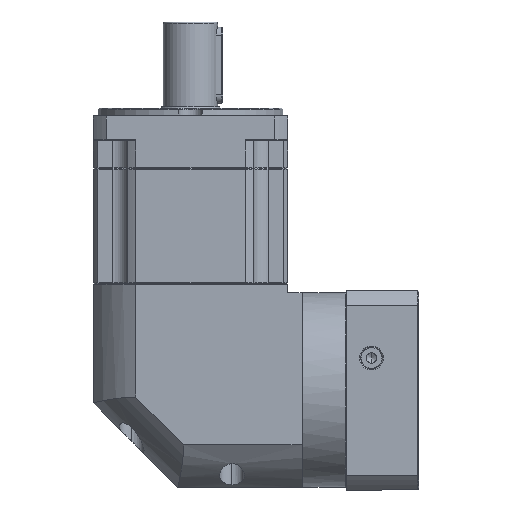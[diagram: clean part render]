
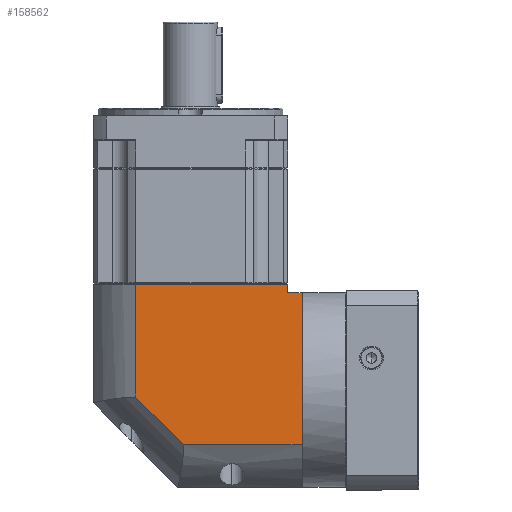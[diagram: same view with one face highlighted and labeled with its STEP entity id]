
A CAD part, left-side view. The second image highlights one B-rep face of the part: STEP entity #158562.
In plain terms, the highlighted planar face has unit normal (-1, 0, 0).
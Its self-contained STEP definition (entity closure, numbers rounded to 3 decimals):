
#366 = CARTESIAN_POINT ( 'NONE',  ( -232.004, -67.467, 7.551 ) ) ;
#692 = VERTEX_POINT ( 'NONE', #87624 ) ;
#2110 = VECTOR ( 'NONE', #4855, 1000. ) ;
#3949 = ORIENTED_EDGE ( 'NONE', *, *, #139389, .F. ) ;
#3987 = LINE ( 'NONE', #162238, #174203 ) ;
#4139 = CARTESIAN_POINT ( 'NONE',  ( -232.004, 22.433, 134.051 ) ) ;
#4855 = DIRECTION ( 'NONE',  ( 0., -1., 0. ) ) ;
#5204 = CARTESIAN_POINT ( 'NONE',  ( -232.004, 47.533, 134.051 ) ) ;
#6316 = LINE ( 'NONE', #165802, #2110 ) ;
#15825 = VECTOR ( 'NONE', #116271, 1000. ) ;
#17711 = VERTEX_POINT ( 'NONE', #156523 ) ;
#18158 = PLANE ( 'NONE',  #49933 ) ;
#18735 = DIRECTION ( 'NONE',  ( 0., 1., 0. ) ) ;
#24868 = VECTOR ( 'NONE', #58538, 1000. ) ;
#27410 = ORIENTED_EDGE ( 'NONE', *, *, #161870, .F. ) ;
#29100 = LINE ( 'NONE', #45051, #24868 ) ;
#29278 = CARTESIAN_POINT ( 'NONE',  ( -232.004, -67.467, 127.551 ) ) ;
#35707 = CARTESIAN_POINT ( 'NONE',  ( -232.004, -75.867, 32.651 ) ) ;
#40419 = ORIENTED_EDGE ( 'NONE', *, *, #164930, .T. ) ;
#43357 = ORIENTED_EDGE ( 'NONE', *, *, #144510, .F. ) ;
#45051 = CARTESIAN_POINT ( 'NONE',  ( -232.004, -5.905, 32.651 ) ) ;
#48315 = ORIENTED_EDGE ( 'NONE', *, *, #133468, .F. ) ;
#49933 = AXIS2_PLACEMENT_3D ( 'NONE', #5204, #99114, #18735 ) ;
#58538 = DIRECTION ( 'NONE',  ( 0., 0.707, 0.707 ) ) ;
#59085 = DIRECTION ( 'NONE',  ( 0., 1., 0. ) ) ;
#59761 = VERTEX_POINT ( 'NONE', #35707 ) ;
#73436 = LINE ( 'NONE', #366, #144818 ) ;
#77522 = VERTEX_POINT ( 'NONE', #29278 ) ;
#77940 = CARTESIAN_POINT ( 'NONE',  ( -232.004, -5.905, 32.651 ) ) ;
#84559 = DIRECTION ( 'NONE',  ( 0., 0., 1. ) ) ;
#87624 = CARTESIAN_POINT ( 'NONE',  ( -232.004, -67.467, 122.551 ) ) ;
#93904 = VECTOR ( 'NONE', #59085, 1000. ) ;
#94252 = DIRECTION ( 'NONE',  ( 0., 0., 1. ) ) ;
#94698 = VERTEX_POINT ( 'NONE', #145374 ) ;
#97829 = EDGE_CURVE ( 'NONE', #94698, #59761, #3987, .T. ) ;
#99114 = DIRECTION ( 'NONE',  ( 1., 0., 0. ) ) ;
#101854 = VERTEX_POINT ( 'NONE', #148591 ) ;
#102749 = CARTESIAN_POINT ( 'NONE',  ( -232.004, 47.533, 32.651 ) ) ;
#108145 = VECTOR ( 'NONE', #84559, 1000. ) ;
#110204 = VERTEX_POINT ( 'NONE', #77940 ) ;
#116271 = DIRECTION ( 'NONE',  ( 0., 1., 0. ) ) ;
#119313 = ORIENTED_EDGE ( 'NONE', *, *, #97829, .F. ) ;
#122908 = LINE ( 'NONE', #102749, #15825 ) ;
#129634 = LINE ( 'NONE', #166020, #93904 ) ;
#133468 = EDGE_CURVE ( 'NONE', #110204, #101854, #29100, .T. ) ;
#135733 = DIRECTION ( 'NONE',  ( 0., 0., -1. ) ) ;
#139389 = EDGE_CURVE ( 'NONE', #17711, #77522, #6316, .T. ) ;
#143857 = LINE ( 'NONE', #4139, #108145 ) ;
#144510 = EDGE_CURVE ( 'NONE', #101854, #17711, #143857, .T. ) ;
#144818 = VECTOR ( 'NONE', #94252, 1000. ) ;
#145374 = CARTESIAN_POINT ( 'NONE',  ( -232.004, -75.867, 122.551 ) ) ;
#148591 = CARTESIAN_POINT ( 'NONE',  ( -232.004, 22.433, 60.989 ) ) ;
#152280 = EDGE_LOOP ( 'NONE', ( #43357, #48315, #27410, #119313, #40419, #168759, #3949 ) ) ;
#156523 = CARTESIAN_POINT ( 'NONE',  ( -232.004, 22.433, 127.551 ) ) ;
#158562 = ADVANCED_FACE ( 'NONE', ( #162785 ), #18158, .F. ) ;
#160046 = EDGE_CURVE ( 'NONE', #692, #77522, #73436, .T. ) ;
#161870 = EDGE_CURVE ( 'NONE', #59761, #110204, #122908, .T. ) ;
#162238 = CARTESIAN_POINT ( 'NONE',  ( -232.004, -75.867, 134.051 ) ) ;
#162785 = FACE_OUTER_BOUND ( 'NONE', #152280, .T. ) ;
#164930 = EDGE_CURVE ( 'NONE', #94698, #692, #129634, .T. ) ;
#165802 = CARTESIAN_POINT ( 'NONE',  ( -232.004, 47.533, 127.551 ) ) ;
#166020 = CARTESIAN_POINT ( 'NONE',  ( -232.004, -67.467, 122.551 ) ) ;
#168759 = ORIENTED_EDGE ( 'NONE', *, *, #160046, .T. ) ;
#174203 = VECTOR ( 'NONE', #135733, 1000. ) ;
